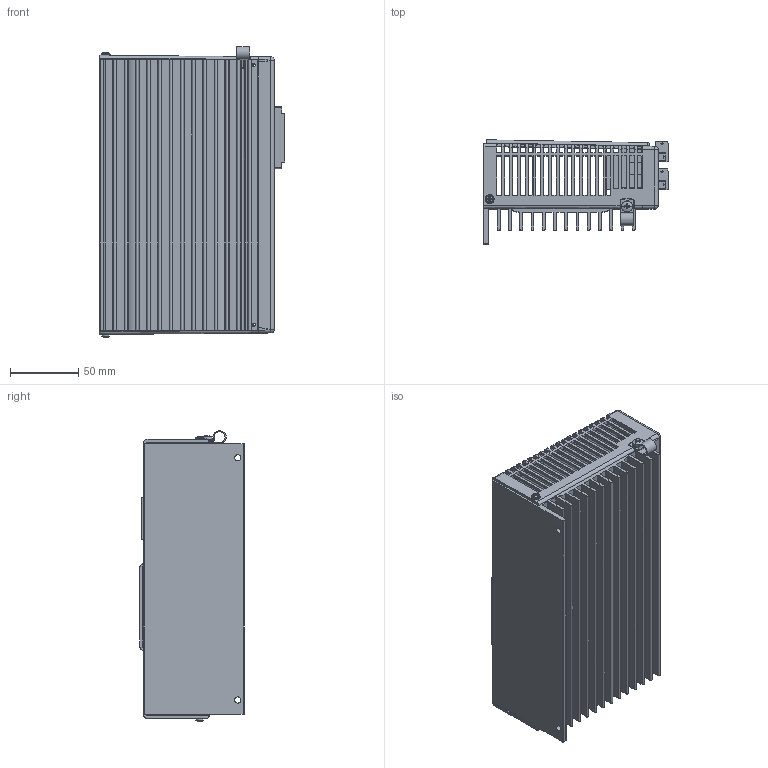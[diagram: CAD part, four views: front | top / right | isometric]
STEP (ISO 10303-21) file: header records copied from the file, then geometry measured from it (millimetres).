
FILE_DESCRIPTION((''),'2;1');
FILE_NAME('400','2007-05-01T',('JOHNB'),('Ultra Tool'),'PRO/ENGINEER BY PARAMETRIC TECHNOLOGY CORPORATION, 2005380','PRO/ENGINEER BY PARAMETRIC TECHNOLOGY CORPORATION, 2005380','');
FILE_SCHEMA(('CONFIG_CONTROL_DESIGN'));
Products named in the file (1): 400
Bounding box: 135.92 x 76.41 x 213.39 mm (x, y, z)
Volume: 416000.4 mm3; surface area: 271872.9 mm2
Topology: 11 solids, 13 shells, 1472 faces, 4266 edges, 2737 vertices
Faces by surface type: plane 916, cylinder 402, bspline 86, cone 32, sphere 19, extrusion 9, torus 8
Entity records: 64374 total; most frequent: CARTESIAN_POINT 15302, ORIENTED_EDGE 8388, DIRECTION 7248, EDGE_CURVE 4194, VECTOR 3012, LINE 3003, VERTEX_POINT 2794, AXIS2_PLACEMENT_3D 2118
